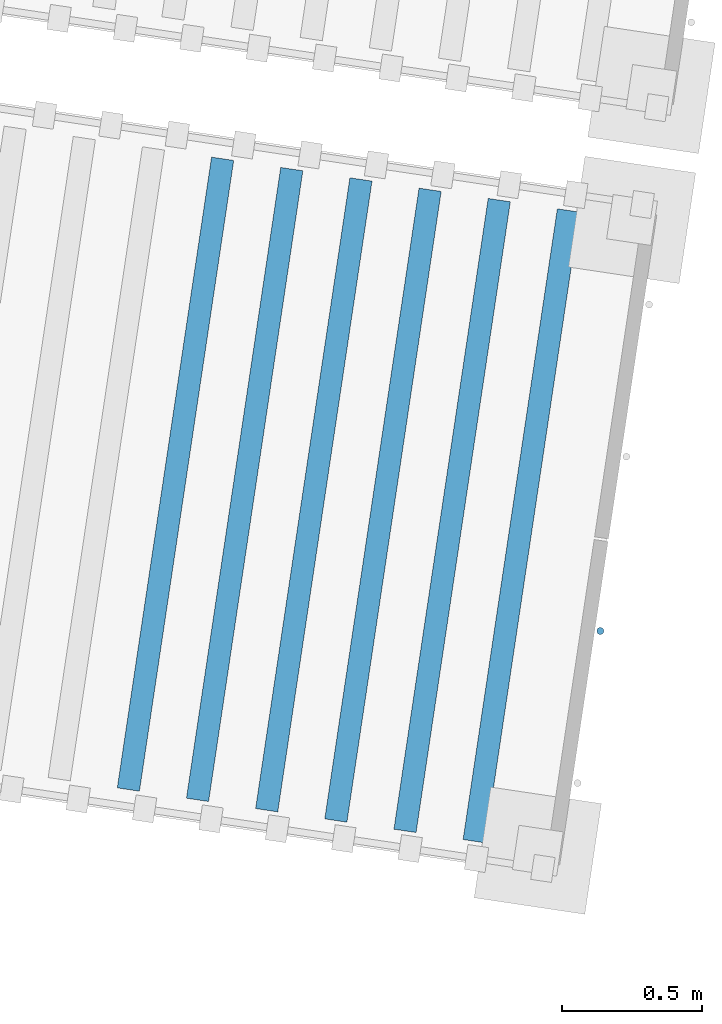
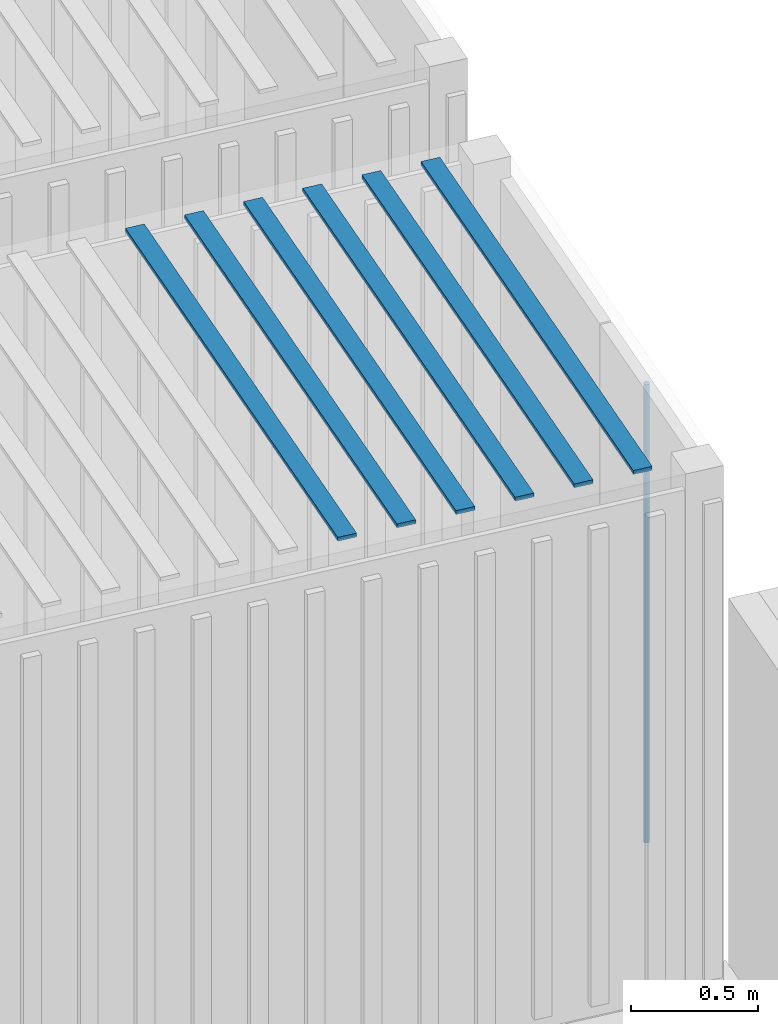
# One storey, part 26 of 142: 7 members, 1 element without a shape of its own.
"""IFC4 building model written with IfcOpenShell, lengths in metres."""

from ifc_helpers import new_model, si_unit, direction, frame, origin_with_axes, place, context, subcontext, project, spatial, polyline, circle, outline, extrude, material, material_profile, profile_set, profile_usage, type_object, element, aggregate, save


model = new_model("IFC4")

# Units and contexts
model_context = context("Model", 3, precision=1e-05, world=origin_with_axes(), true_north=direction((0.0, 1.0)))
body_context = subcontext(model_context, "Body", "Model", "MODEL_VIEW")
ifc_project = project(units=[si_unit("VOLUMEUNIT", "CUBIC_METRE"), si_unit("LENGTHUNIT", "METRE"), si_unit("AREAUNIT", "SQUARE_METRE")], contexts=[model_context])

# Site, building, storey
site_placement = place(None, origin_with_axes())
site = spatial("IfcSite", under=ifc_project, at=site_placement, Name="Lares · Rua das Mercês · artigo 4771")
building_placement = place(site_placement, frame((12.0, 10.2, 13.9), z_axis=(0.0, 0.0, 1.0), x_axis=(0.989015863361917, -0.147809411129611, 0.0)))
building = spatial("IfcBuilding", under=site, at=building_placement, Name="Casa Sobreposta")
storey_placement = place(building_placement, origin_with_axes())
storey = spatial("IfcBuildingStorey", under=building, at=storey_placement, Name="00 · Habitação e estacionamento", Elevation=13.9)

# Assembly, members
assembly_placement = place(storey_placement, origin_with_axes())
assembly = element("IfcElementAssembly", 1, at=assembly_placement, inside=storey, ObjectType="EXISTING_SHIPPING_CONTAINER", PredefinedType="USERDEFINED")
ifc_material_1 = material(Name="Aço galvanizado / Stahl verzinkt", Category="steel")
ifc_material_profile = material_profile(ifc_material_1, circle(Radius=0.0125))
ifc_profile_set = profile_set([ifc_material_profile], Name="D0.025")
ifc_profile_usage = profile_usage(ifc_profile_set)
member_type = type_object("IfcMemberType", Name="D0.025 / galvanized", PredefinedType="NOTDEFINED", material=ifc_profile_set)
member_1_placement = place(assembly_placement, frame((-6.975, 5.89, -0.394226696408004), z_axis=(0.0, 0.0, 1.0), x_axis=(1.0, 0.0, 0.0)))
member_1 = element("IfcMember", 2, at=member_1_placement, type_object=member_type, material=ifc_profile_usage, Name="Contentor · varão de fecho", context=body_context, shape_type="SweptSolid", body=[
    extrude(circle(Radius=0.0125), origin_with_axes(), (0.0, 0.0, 1.0), 2.2),
])
ifc_material_2 = material(Name="Contentor · pintura 1", Category="steel")
member_2_placement = place(assembly_placement, frame((0.0, 0.0, 1.990773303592), z_axis=(0.0, 0.0, 1.0), x_axis=(1.0, 0.0, 0.0)))
member_2 = element("IfcMember", 3, at=member_2_placement, material=ifc_material_2, Name="Contentor · nervura cobertura", context=body_context, shape_type="SweptSolid", body=[
    extrude(outline(polyline([(-8.52, 5.08), (-8.52, 7.36), (-8.6, 7.36), (-8.6, 5.08), (-8.52, 5.08)])), origin_with_axes(), (0.0, 0.0, 1.0), 0.018),
])
member_3_placement = place(assembly_placement, frame((0.0, 0.0, 1.990773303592), z_axis=(0.0, 0.0, 1.0), x_axis=(1.0, 0.0, 0.0)))
member_3 = element("IfcMember", 4, at=member_3_placement, material=ifc_material_2, Name="Contentor · nervura cobertura", context=body_context, shape_type="SweptSolid", body=[
    extrude(outline(polyline([(-8.27, 5.08), (-8.27, 7.36), (-8.35, 7.36), (-8.35, 5.08), (-8.27, 5.08)])), origin_with_axes(), (0.0, 0.0, 1.0), 0.018),
])
member_4_placement = place(assembly_placement, frame((0.0, 0.0, 1.990773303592), z_axis=(0.0, 0.0, 1.0), x_axis=(1.0, 0.0, 0.0)))
member_4 = element("IfcMember", 5, at=member_4_placement, material=ifc_material_2, Name="Contentor · nervura cobertura", context=body_context, shape_type="SweptSolid", body=[
    extrude(outline(polyline([(-8.02, 5.08), (-8.02, 7.36), (-8.1, 7.36), (-8.1, 5.08), (-8.02, 5.08)])), origin_with_axes(), (0.0, 0.0, 1.0), 0.018),
])
member_5_placement = place(assembly_placement, frame((0.0, 0.0, 1.990773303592), z_axis=(0.0, 0.0, 1.0), x_axis=(1.0, 0.0, 0.0)))
member_5 = element("IfcMember", 6, at=member_5_placement, material=ifc_material_2, Name="Contentor · nervura cobertura", context=body_context, shape_type="SweptSolid", body=[
    extrude(outline(polyline([(-7.77, 5.08), (-7.77, 7.36), (-7.85, 7.36), (-7.85, 5.08), (-7.77, 5.08)])), origin_with_axes(), (0.0, 0.0, 1.0), 0.018),
])
member_6_placement = place(assembly_placement, frame((0.0, 0.0, 1.990773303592), z_axis=(0.0, 0.0, 1.0), x_axis=(1.0, 0.0, 0.0)))
member_6 = element("IfcMember", 7, at=member_6_placement, material=ifc_material_2, Name="Contentor · nervura cobertura", context=body_context, shape_type="SweptSolid", body=[
    extrude(outline(polyline([(-7.52, 5.08), (-7.52, 7.36), (-7.6, 7.36), (-7.6, 5.08), (-7.52, 5.08)])), origin_with_axes(), (0.0, 0.0, 1.0), 0.018),
])
member_7_placement = place(assembly_placement, frame((0.0, 0.0, 1.990773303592), z_axis=(0.0, 0.0, 1.0), x_axis=(1.0, 0.0, 0.0)))
member_7 = element("IfcMember", 8, at=member_7_placement, material=ifc_material_2, Name="Contentor · nervura cobertura", context=body_context, shape_type="SweptSolid", body=[
    extrude(outline(polyline([(-7.27, 5.08), (-7.27, 7.36), (-7.35, 7.36), (-7.35, 5.08), (-7.27, 5.08)])), origin_with_axes(), (0.0, 0.0, 1.0), 0.018),
])
aggregate(assembly, [member_1, member_2, member_3, member_4, member_5, member_6, member_7])

save(model, "model.ifc")
